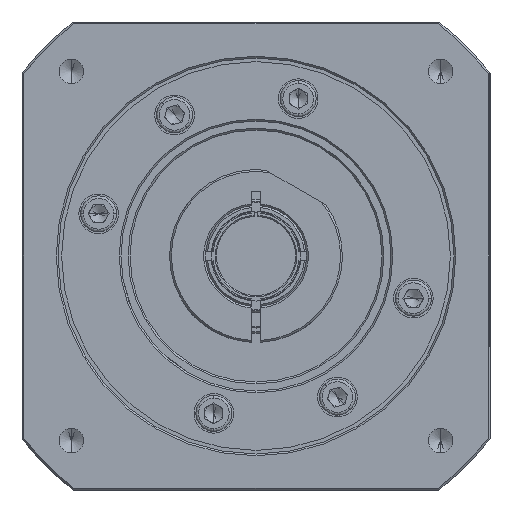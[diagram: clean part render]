
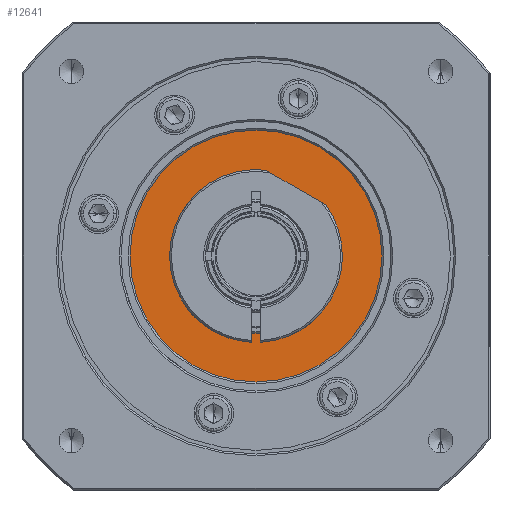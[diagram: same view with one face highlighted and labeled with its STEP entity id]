
A CAD part, left-side view. The second image highlights one B-rep face of the part: STEP entity #12641.
In plain terms, the highlighted planar face has unit normal (-1, 0, 0).
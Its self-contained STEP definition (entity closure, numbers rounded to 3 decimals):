
#1483 = DIRECTION ( 'NONE',  ( 0., 0., -1. ) ) ;
#2140 = EDGE_CURVE ( 'NONE', #12504, #4757, #13545, .T. ) ;
#3146 = DIRECTION ( 'NONE',  ( 1., 0., 0. ) ) ;
#4757 = VERTEX_POINT ( 'NONE', #17417 ) ;
#4814 = ORIENTED_EDGE ( 'NONE', *, *, #17608, .F. ) ;
#5853 = DIRECTION ( 'NONE',  ( 1., 0., 0. ) ) ;
#5970 = FACE_OUTER_BOUND ( 'NONE', #11549, .T. ) ;
#9154 = AXIS2_PLACEMENT_3D ( 'NONE', #14836, #23748, #1483 ) ;
#10410 = CARTESIAN_POINT ( 'NONE',  ( 0., 0., 0. ) ) ;
#11549 = EDGE_LOOP ( 'NONE', ( #4814, #21684 ) ) ;
#11985 = CARTESIAN_POINT ( 'NONE',  ( 0., 0., 0. ) ) ;
#12504 = VERTEX_POINT ( 'NONE', #18384 ) ;
#12641 = ADVANCED_FACE ( 'NONE', ( #5970 ), #21242, .F. ) ;
#13545 = CIRCLE ( 'NONE', #9154, 62.1 ) ;
#14836 = CARTESIAN_POINT ( 'NONE',  ( 0., 0., 0. ) ) ;
#17417 = CARTESIAN_POINT ( 'NONE',  ( 0., 0., -62.1 ) ) ;
#17608 = EDGE_CURVE ( 'NONE', #4757, #12504, #22582, .T. ) ;
#18384 = CARTESIAN_POINT ( 'NONE',  ( 0., 0., 62.1 ) ) ;
#20370 = AXIS2_PLACEMENT_3D ( 'NONE', #11985, #3146, #25438 ) ;
#21242 = PLANE ( 'NONE',  #21405 ) ;
#21405 = AXIS2_PLACEMENT_3D ( 'NONE', #10410, #5853, #21432 ) ;
#21432 = DIRECTION ( 'NONE',  ( 0., 0., -1. ) ) ;
#21684 = ORIENTED_EDGE ( 'NONE', *, *, #2140, .F. ) ;
#22582 = CIRCLE ( 'NONE', #20370, 62.1 ) ;
#23748 = DIRECTION ( 'NONE',  ( 1., 0., 0. ) ) ;
#25438 = DIRECTION ( 'NONE',  ( 0., 0., -1. ) ) ;
